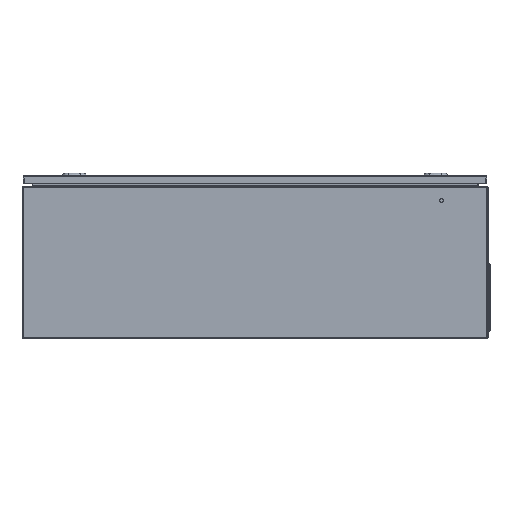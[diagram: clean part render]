
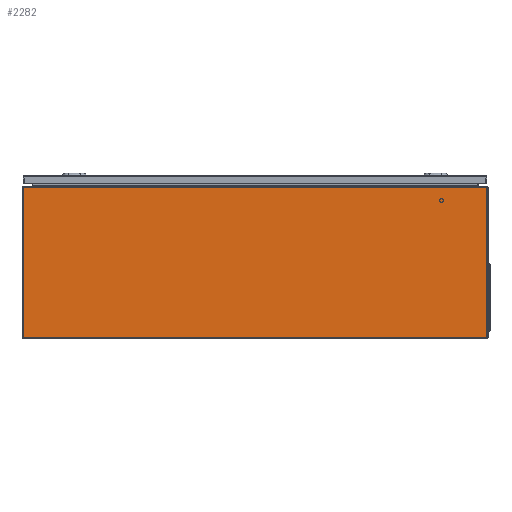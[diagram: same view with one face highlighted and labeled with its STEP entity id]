
A CAD part, left-side view. The second image highlights one B-rep face of the part: STEP entity #2282.
In plain terms, the highlighted planar face has unit normal (-1, 0, 0).
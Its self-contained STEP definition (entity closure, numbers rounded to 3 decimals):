
#674 = VERTEX_POINT ( 'NONE', #18180 ) ;
#1656 = VECTOR ( 'NONE', #16970, 1000. ) ;
#1994 = VECTOR ( 'NONE', #20410, 1000. ) ;
#2282 = ADVANCED_FACE ( 'NONE', ( #7143 ), #7407, .F. ) ;
#3360 = DIRECTION ( 'NONE',  ( 0., 0., 1. ) ) ;
#3919 = VECTOR ( 'NONE', #26862, 1000. ) ;
#4274 = EDGE_CURVE ( 'NONE', #18476, #13232, #22491, .T. ) ;
#4794 = DIRECTION ( 'NONE',  ( 0., 0., -1. ) ) ;
#5318 = CARTESIAN_POINT ( 'NONE',  ( -300., -497.5, 1.5 ) ) ;
#6335 = ORIENTED_EDGE ( 'NONE', *, *, #22339, .T. ) ;
#7143 = FACE_OUTER_BOUND ( 'NONE', #16330, .T. ) ;
#7384 = LINE ( 'NONE', #5318, #18240 ) ;
#7407 = PLANE ( 'NONE',  #16783 ) ;
#7531 = CARTESIAN_POINT ( 'NONE',  ( -300., 497.5, 2.35 ) ) ;
#8204 = VERTEX_POINT ( 'NONE', #11354 ) ;
#8466 = CARTESIAN_POINT ( 'NONE',  ( -300., -500., 2.35 ) ) ;
#9008 = LINE ( 'NONE', #8466, #1656 ) ;
#11354 = CARTESIAN_POINT ( 'NONE',  ( -300., -497.5, 2.35 ) ) ;
#13232 = VERTEX_POINT ( 'NONE', #7531 ) ;
#15756 = CARTESIAN_POINT ( 'NONE',  ( -300., -500., 1.5 ) ) ;
#16330 = EDGE_LOOP ( 'NONE', ( #21502, #6335, #24669, #20019 ) ) ;
#16783 = AXIS2_PLACEMENT_3D ( 'NONE', #15756, #24395, #4794 ) ;
#16970 = DIRECTION ( 'NONE',  ( 0., -1., 0. ) ) ;
#18180 = CARTESIAN_POINT ( 'NONE',  ( -300., -497.5, 324.5 ) ) ;
#18240 = VECTOR ( 'NONE', #3360, 1000. ) ;
#18476 = VERTEX_POINT ( 'NONE', #20966 ) ;
#20019 = ORIENTED_EDGE ( 'NONE', *, *, #23590, .F. ) ;
#20339 = CARTESIAN_POINT ( 'NONE',  ( -300., 500., 324.5 ) ) ;
#20410 = DIRECTION ( 'NONE',  ( 0., 0., -1. ) ) ;
#20966 = CARTESIAN_POINT ( 'NONE',  ( -300., 497.5, 324.5 ) ) ;
#21502 = ORIENTED_EDGE ( 'NONE', *, *, #4274, .T. ) ;
#21706 = CARTESIAN_POINT ( 'NONE',  ( -300., 497.5, 1.5 ) ) ;
#22339 = EDGE_CURVE ( 'NONE', #13232, #8204, #9008, .T. ) ;
#22491 = LINE ( 'NONE', #21706, #1994 ) ;
#23590 = EDGE_CURVE ( 'NONE', #18476, #674, #23959, .T. ) ;
#23959 = LINE ( 'NONE', #20339, #3919 ) ;
#24395 = DIRECTION ( 'NONE',  ( 1., 0., 0. ) ) ;
#24669 = ORIENTED_EDGE ( 'NONE', *, *, #27101, .T. ) ;
#26862 = DIRECTION ( 'NONE',  ( 0., -1., 0. ) ) ;
#27101 = EDGE_CURVE ( 'NONE', #8204, #674, #7384, .T. ) ;
